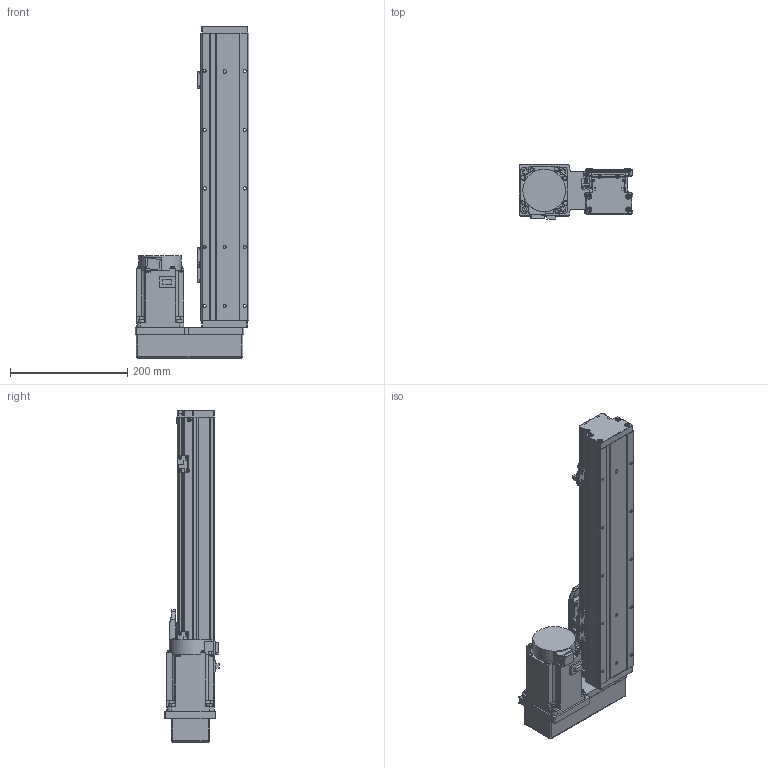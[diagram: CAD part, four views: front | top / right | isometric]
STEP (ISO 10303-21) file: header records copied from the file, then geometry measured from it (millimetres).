
FILE_DESCRIPTION (( 'STEP AP203' ), '1' );
FILE_NAME ('GTH8-300-BL-M75-C4.step', '2023-02-14T02:23:53', ( '微软用户' ), ( '微软中国' ), 'SwSTEP 2.0', 'SolidWorks 2020', '' );
FILE_SCHEMA (( 'CONFIG_CONTROL_DESIGN' ));
Length unit declared in the file: millimetre
Products named in the file (18): GBT 70.1-M3℅6; GTH80-003; CTHA86-015-3_CTHA86-015-4; GBT 70.1-M4×16; GTH80-004; CTHA86-035; GTH80-028; GTH80-006; hg-kn73j_-s100; GTH50-024; GTH80-013; GTH8-300-BL-M75-C4; GTH50-023; GBT 70.3-M3℅6; GBT96.1-2002 3×0.8; GTH80-022; GTH80-001_300; BTH-M3X5X6
Assembly tree (57 placements, depth 2):
  GTH8-300-BL-M75-C4
    GTH80-001_300
    GTH80-003
    GTH80-004
    GTH80-006
    GTH80-013
    GBT 70.3-M3℅6  x4
    GTH80-022
    GBT 70.1-M3℅6  x14
    GBT 70.1-M4×16  x8
    GTH80-028  x2
    GTH50-024  x3
    GTH50-023  x3
    GBT96.1-2002 3×0.8  x6
    BTH-M3X5X6  x8
    CTHA86-015-3_CTHA86-015-4
    CTHA86-035
    hg-kn73j_-s100
Bounding box: 193.5 x 92.3 x 566 mm (x, y, z)
Volume: 3669779 mm3; surface area: 404889.2 mm2
Topology: 59 solids, 59 shells, 2183 faces, 5058 edges, 3096 vertices
Faces by surface type: plane 1153, cylinder 615, cone 243, torus 158, sphere 12, bspline 2
Entity records: 39144 total; most frequent: CARTESIAN_POINT 6575, DIRECTION 6445, ORIENTED_EDGE 5926, EDGE_CURVE 2963, AXIS2_PLACEMENT_3D 2266, LINE 1913, VECTOR 1913, VERTEX_POINT 1871
